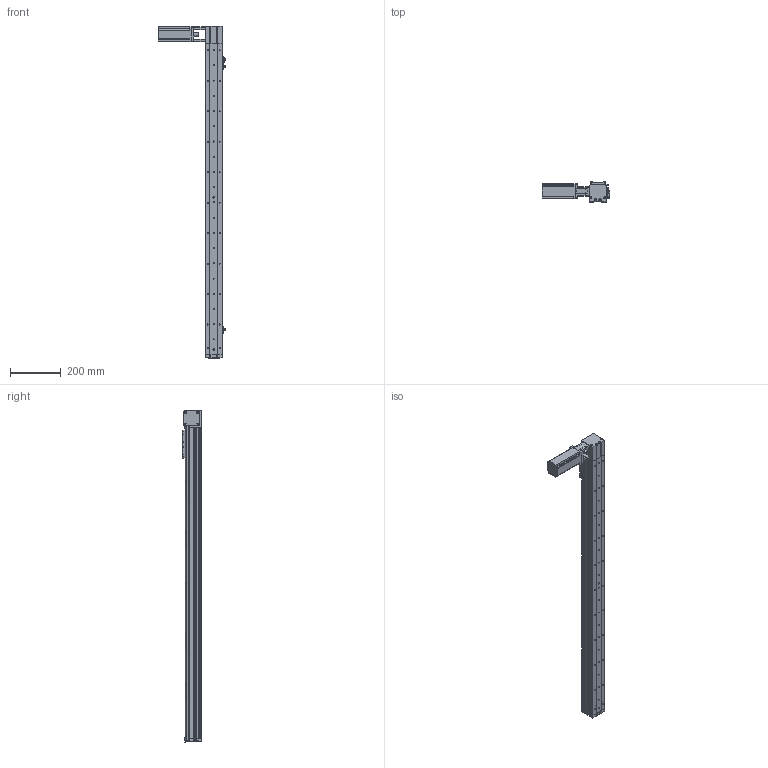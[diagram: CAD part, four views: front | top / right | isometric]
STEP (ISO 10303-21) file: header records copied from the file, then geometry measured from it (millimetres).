
FILE_DESCRIPTION (( 'STEP AP214' ), '1' );
FILE_NAME ('KSD68BS-S1050-MLT-CR.STEP', '2019-11-08T05:24:59', ( '微软用户' ), ( '微软中国' ), 'SwSTEP 2.0', 'SolidWorks 2014', '' );
FILE_SCHEMA (( 'AUTOMOTIVE_DESIGN' ));
Length unit declared in the file: millimetre
Products named in the file (13): 100遵鎮湛假蚾啣1; KSD68BS 1050行程盖板全封闭; 68遵裔啣揤啣1; 68宽单导轨全封闭丝杆传动安装板1防护罩; KSD68BS 1050行程侧板全封闭; 68宽单导轨全封闭同步带端板; 68单导轨全封闭同步带电机座右; 68单导轨全封闭同步带安装板; 感应片68宽全封闭; U倰嫖萇EEㄜSX672; 台达ECMA－C20604AS伺服电机（400W); KSD68BS 1050行程底板全封闭; KSD68BS-S1050-MLT-CR
Assembly tree (16 placements, depth 2):
  KSD68BS-S1050-MLT-CR
    KSD68BS 1050行程底板全封闭
    台达ECMA－C20604AS伺服电机（400W)
    U倰嫖萇EEㄜSX672  x3
    感应片68宽全封闭
    68单导轨全封闭同步带安装板
    68单导轨全封闭同步带电机座右
    68宽单导轨全封闭同步带端板
    KSD68BS 1050行程侧板全封闭  x2
    68宽单导轨全封闭丝杆传动安装板1防护罩
    68遵裔啣揤啣1  x2
    KSD68BS 1050行程盖板全封闭
    100遵鎮湛假蚾啣1
Bounding box: 266.4 x 77 x 1308.1 mm (x, y, z)
Volume: 2552661.3 mm3; surface area: 966113.1 mm2
Topology: 17 solids, 17 shells, 1482 faces, 4234 edges, 2699 vertices
Faces by surface type: cylinder 706, plane 604, cone 172
Entity records: 47293 total; most frequent: CARTESIAN_POINT 8103, DIRECTION 7010, ORIENTED_EDGE 6704, EDGE_CURVE 3352, AXIS2_PLACEMENT_3D 2540, VERTEX_POINT 2197, LINE 1930, VECTOR 1930
